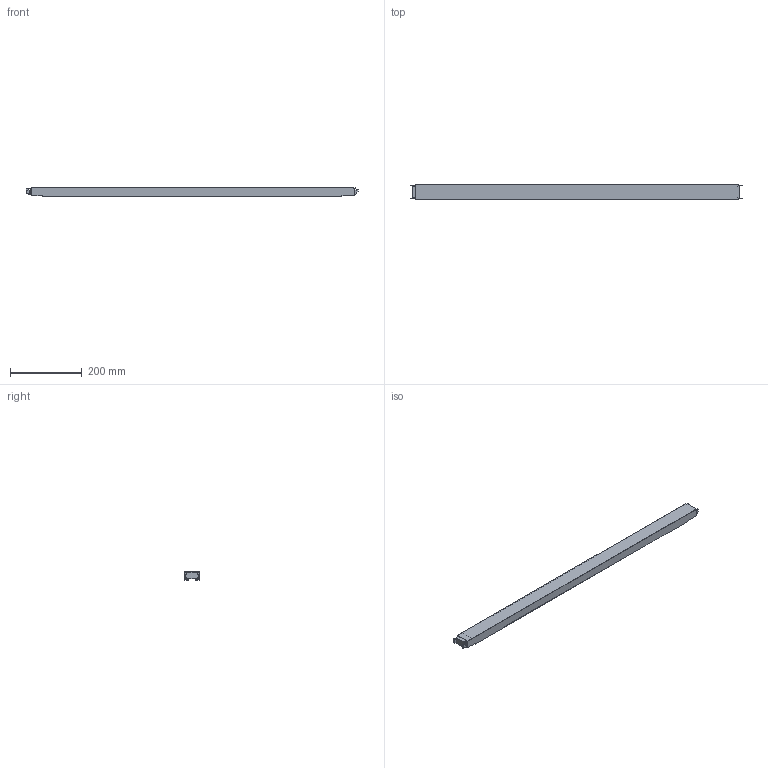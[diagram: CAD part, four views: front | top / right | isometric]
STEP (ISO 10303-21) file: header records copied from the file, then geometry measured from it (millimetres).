
FILE_DESCRIPTION( ( 'STEP AP214' ), '1' );
FILE_NAME( 'p:/temp/worker_119/temp/exporttempdir_932_29_RZvjO/format_0/CLPF1000(0).stp', '2021-03-15T14:39:40', ( 'License CC BY-ND 4.0' ), ( 'CADENAS' ), ' ', 'PARTsolutions', ' ' );
FILE_SCHEMA( ( 'AUTOMOTIVE_DESIGN { 1 0 10303 214 1 1 1 1 }' ) );
Length unit declared in the file: millimetre
Products named in the file (3): CLPF1000(0); _CLPF1000(0)_P1; _CLPFXXXX(0)_P2
Assembly tree (2 placements, depth 2):
  CLPF1000(0)
    _CLPF1000(0)_P1
    _CLPFXXXX(0)_P2
Bounding box: 924.47 x 40 x 25 mm (x, y, z)
Volume: 145841 mm3; surface area: 194953.9 mm2
Topology: 2 solids, 2 shells, 94 faces, 282 edges, 188 vertices
Faces by surface type: plane 90, cylinder 4
Entity records: 3928 total; most frequent: CARTESIAN_POINT 567, ORIENTED_EDGE 564, DIRECTION 484, EDGE_CURVE 282, LINE 274, VECTOR 274, VERTEX_POINT 188, AXIS2_PLACEMENT_3D 105
